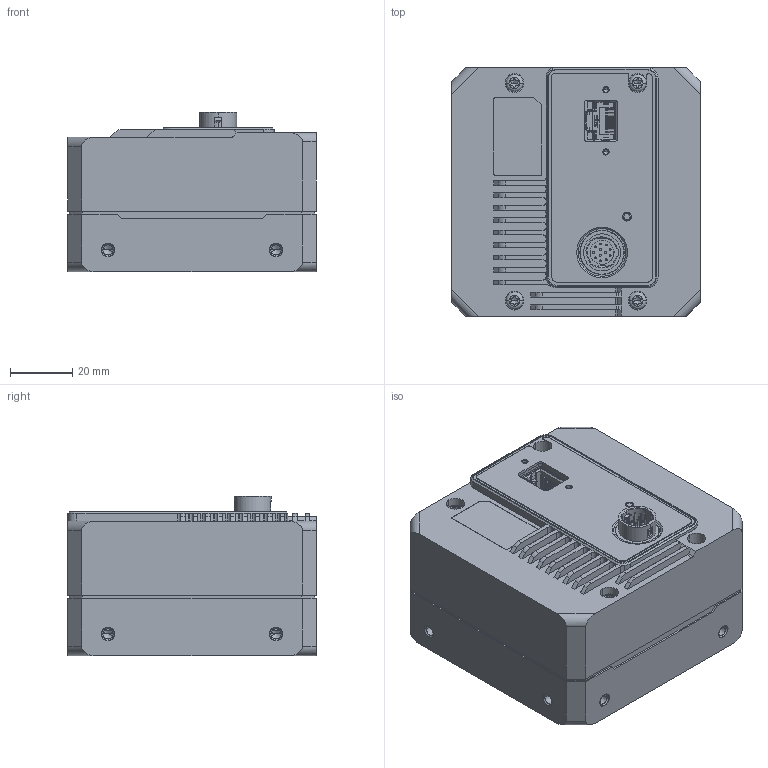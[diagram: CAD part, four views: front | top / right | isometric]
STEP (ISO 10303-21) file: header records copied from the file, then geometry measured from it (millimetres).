
FILE_DESCRIPTION((''),'2;1');
FILE_NAME('00-ALL-ASM_ASM','2021-01-25T20:13:33',('mafangning'),(''),'CREO PARAMETRIC BY PTC INC, 2020044','CREO PARAMETRIC BY PTC INC, 2020044','');
FILE_SCHEMA(('CONFIG_CONTROL_DESIGN'));
Products named in the file (20): DE-14-003952; GLASS; DE-14-003953; DE-17-000380; DE-14-004464; CASE-ALL_ASM; PCB_SENSOR_ASM; HR10A-10R-12PB; D-01-35-26-0096; MV-20126REV1-1_ASM; ST-S46-M24-F24-B000; SC-T1M2X4NL; PCB-ASM_ASM; D-01-37-26-0200; SC-PM2X6B-JMP; DAOREDIAN-22X15; SC-PM3X28T10L9-B-SUS; MV-23195REV1-0_ASM; MV-20126REV12-0121-202101211209; 00-ALL-ASM_ASM
Assembly tree (22 placements, depth 4):
  00-ALL-ASM_ASM
    CASE-ALL_ASM
      DE-14-003952
      GLASS
      DE-14-003953
      DE-17-000380
      DE-14-004464
    PCB-ASM_ASM
      PCB_SENSOR_ASM
      MV-20126REV1-1_ASM
        HR10A-10R-12PB
        D-01-35-26-0096
      ST-S46-M24-F24-B000
      SC-T1M2X4NL
    D-01-37-26-0200
    SC-PM2X6B-JMP
    DAOREDIAN-22X15
    SC-PM3X28T10L9-B-SUS  x4
    MV-23195REV1-0_ASM
    MV-20126REV12-0121-202101211209
Bounding box: 80 x 80 x 51.25 mm (x, y, z)
Volume: 237007.5 mm3; surface area: 73991.9 mm2
Topology: 25 solids, 85 shells, 6023 faces, 17059 edges, 10939 vertices
Faces by surface type: plane 3990, cylinder 1638, cone 177, torus 75, bspline 65, sphere 54, extrusion 24
Entity records: 190565 total; most frequent: CARTESIAN_POINT 39939, ORIENTED_EDGE 31496, DIRECTION 30365, EDGE_CURVE 16389, VECTOR 12345, LINE 12339, VERTEX_POINT 10543, AXIS2_PLACEMENT_3D 9010
